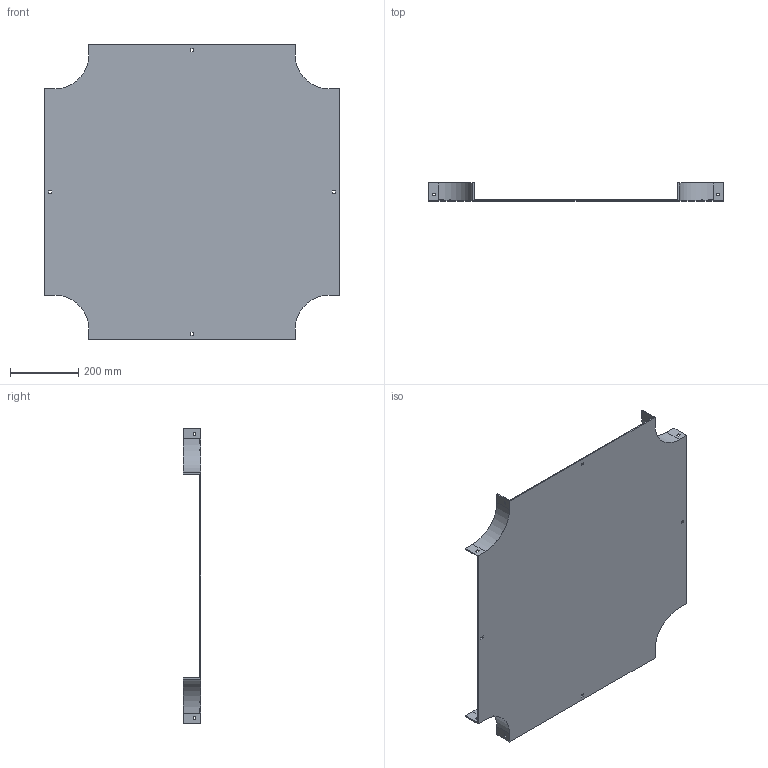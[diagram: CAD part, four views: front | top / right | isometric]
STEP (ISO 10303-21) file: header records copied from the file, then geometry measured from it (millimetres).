
FILE_DESCRIPTION (( 'STEP AP214' ), '1' );
FILE_NAME ('17F1B600.step', '2025-02-21T13:05:58', ( '' ), ( '' ), 'SwSTEP 2.0', 'SolidWorks 2023', '' );
FILE_SCHEMA (( 'AUTOMOTIVE_DESIGN' ));
Length unit declared in the file: millimetre
Products named in the file (1): 17F1B600
Bounding box: 864 x 52 x 864 mm (x, y, z)
Volume: 2552664.8 mm3; surface area: 1472904.7 mm2
Topology: 1 solids, 1 shells, 82 faces, 240 edges, 160 vertices
Faces by surface type: plane 74, cylinder 8
Entity records: 2751 total; most frequent: CARTESIAN_POINT 483, ORIENTED_EDGE 480, DIRECTION 422, EDGE_CURVE 240, LINE 224, VECTOR 224, VERTEX_POINT 160, EDGE_LOOP 106
